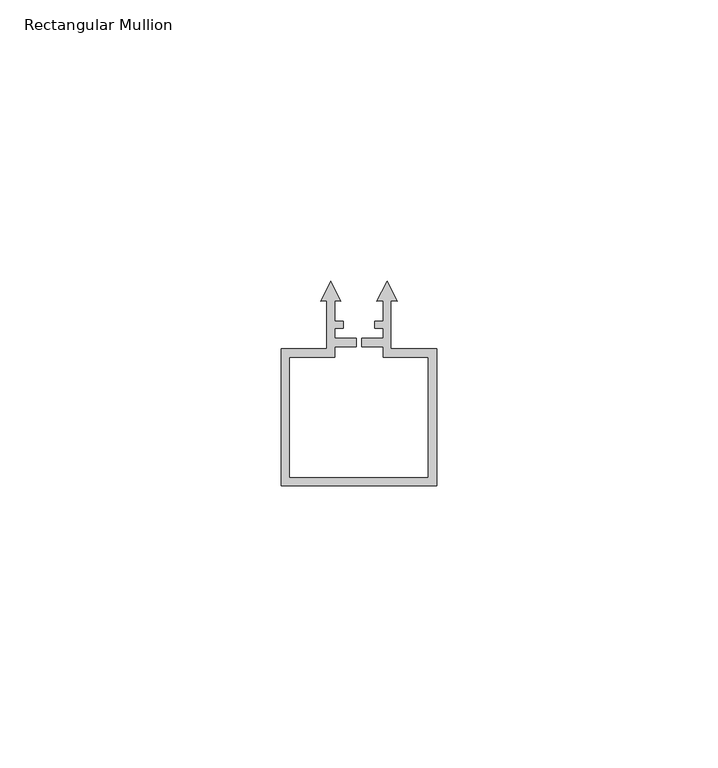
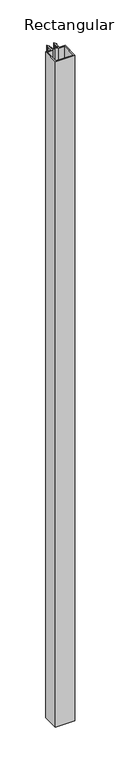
"""IFC4 building model written with IfcOpenShell, lengths in millimetres: member geometry, Rectangular Mullion : Renson_Linarte_LA-B25-02."""

from ifc_helpers import new_model, si_unit, frame, origin, place, context, project, spatial, polyline, outline, extrude, source, transform, mapped, element, save


def rectangular_mullion_e60a95b4(model_context):
    return source(origin(), model_context, "Body", "SweptSolid", [
        extrude(outline(polyline([(-27.7, -61.5), (-27.7, -37.1), (-19.5591807, -37.1), (-19.5591807, -28.5038205), (-20.6749172, -28.6014348), (-18.8591806, -25.0378474), (-17.043444, -28.6014348), (-18.1591804, -28.5038206), (-18.1591804, -32.198351), (-16.65, -32.198351), (-16.65, -33.4004386), (-18.1499998, -33.4004386), (-18.1499998, -35.2), (-14.35, -35.2), (-14.35, -36.7), (-18.1499998, -36.7), (-18.1499998, -38.6), (-26.2, -38.6), (-26.2, -60.0), (-1.5, -60.0), (-1.5, -38.5995654), (-9.5500002, -38.5995654), (-9.5500002, -36.7), (-13.35, -36.7), (-13.35, -35.2), (-9.5500002, -35.2), (-9.5500002, -33.4004386), (-11.05, -33.4004386), (-11.05, -32.198351), (-9.5408196, -32.198351), (-9.5408196, -28.5038206), (-10.656556, -28.6014348), (-8.8408194, -25.0378474), (-7.0250829, -28.6014348), (-8.1408193, -28.5038205), (-8.1408193, -37.0995654), (0.0, -37.0995654), (0.0, -61.5), (-27.7, -61.5)])), frame((0.0, 0.0, -1000.0), z_axis=(0.0, 0.0, 1.0), x_axis=(1.0, 0.0, 0.0)), (0.0, 0.0, 1.0), 1000.0),
    ])


if __name__ == "__main__":
    model = new_model("IFC4")
    model_context = context("Model", 3, world=origin())
    ifc_project = project(units=[si_unit("LENGTHUNIT", "METRE", prefix="MILLI")], contexts=[model_context])
    site = spatial("IfcSite", under=ifc_project)
    building = spatial("IfcBuilding", under=site)
    placement = place(None, origin())
    rectangular_mullion_shape = rectangular_mullion_e60a95b4(model_context)
    element("IfcMember", 1, ObjectType="Rectangular Mullion : Renson_Linarte_LA-B25-02", at=placement, inside=building, context=model_context, shape_type="MappedRepresentation", body=[
        mapped(rectangular_mullion_shape, transform((0.0, 0.0, 0.0), x_axis=(1.0, 0.0, 0.0), y_axis=(0.0, 1.0, 0.0), z_axis=(0.0, 0.0, 1.0))),
    ])
    save(model, "model.ifc")
